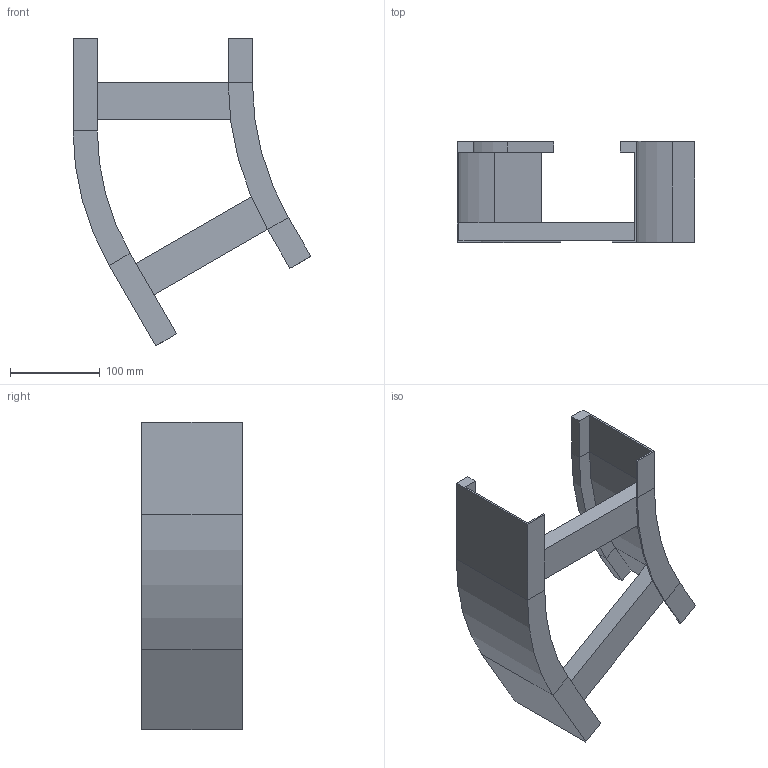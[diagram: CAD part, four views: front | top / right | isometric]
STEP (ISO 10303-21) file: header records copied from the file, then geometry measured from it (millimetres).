
FILE_DESCRIPTION (( 'STEP AP214' ), '1' );
FILE_NAME ('B2_12B3J200.step', '2025-02-21T15:09:23', ( '' ), ( '' ), 'SwSTEP 2.0', 'SolidWorks 2023', '' );
FILE_SCHEMA (( 'AUTOMOTIVE_DESIGN' ));
Length unit declared in the file: millimetre
Products named in the file (4): B2_LONGH.ESTERNO 30°_H112.5_R300+200; B2_LONGH.INTERNO 30°_H112.5_R300; TRAVERSINO_200; B2_12B3J200
Assembly tree (4 placements, depth 2):
  B2_12B3J200
    B2_LONGH.INTERNO 30°_H112.5_R300
    B2_LONGH.ESTERNO 30°_H112.5_R300+200
    TRAVERSINO_200  x2
Bounding box: 265.19 x 112.5 x 343.3 mm (x, y, z)
Volume: 607685.3 mm3; surface area: 245776.4 mm2
Topology: 4 solids, 4 shells, 64 faces, 136 edges, 80 vertices
Faces by surface type: plane 56, cylinder 8
Entity records: 1637 total; most frequent: DIRECTION 270, CARTESIAN_POINT 261, ORIENTED_EDGE 248, EDGE_CURVE 124, VECTOR 108, LINE 108, AXIS2_PLACEMENT_3D 81, VERTEX_POINT 72
